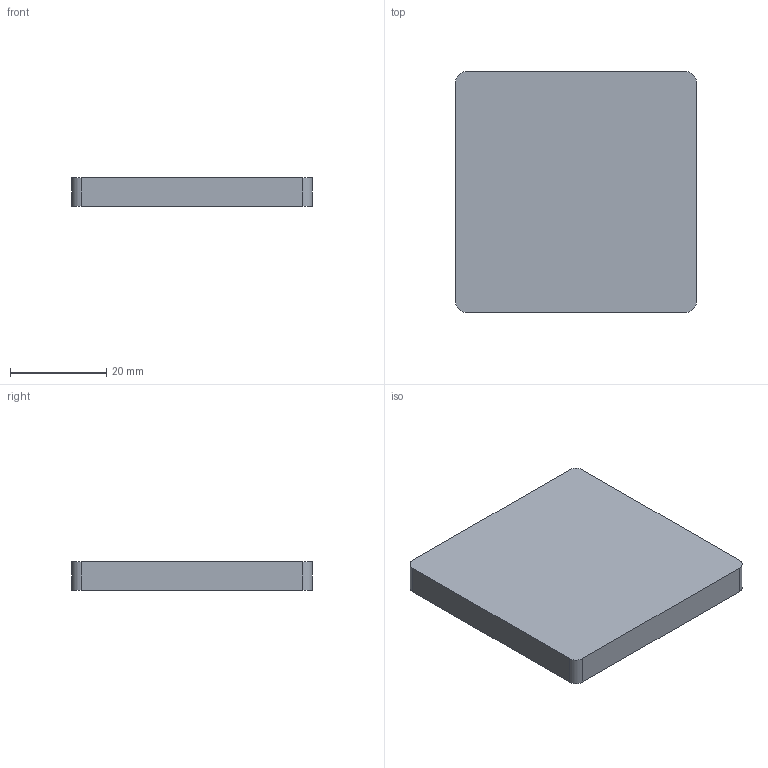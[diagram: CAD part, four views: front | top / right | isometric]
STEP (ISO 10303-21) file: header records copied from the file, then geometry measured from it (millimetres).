
FILE_DESCRIPTION(('FreeCAD Model'),'2;1');
FILE_NAME('Open CASCADE Shape Model','2026-09-29T21:58:29',('Author'),( ''),'Open CASCADE STEP processor 7.8','FreeCAD','Unknown');
FILE_SCHEMA(('AUTOMOTIVE_DESIGN { 1 0 10303 214 1 1 1 1 }'));
Length unit declared in the file: millimetre
Products named in the file (1): shore_comparison_pad
Bounding box: 50 x 50 x 6 mm (x, y, z)
Volume: 14979.4 mm3; surface area: 6172.5 mm2
Topology: 1 solids, 1 shells, 10 faces, 24 edges, 16 vertices
Faces by surface type: plane 6, cylinder 4
Entity records: 306 total; most frequent: DIRECTION 54, CARTESIAN_POINT 51, ORIENTED_EDGE 48, EDGE_CURVE 24, AXIS2_PLACEMENT_3D 19, VERTEX_POINT 16, LINE 16, VECTOR 16
